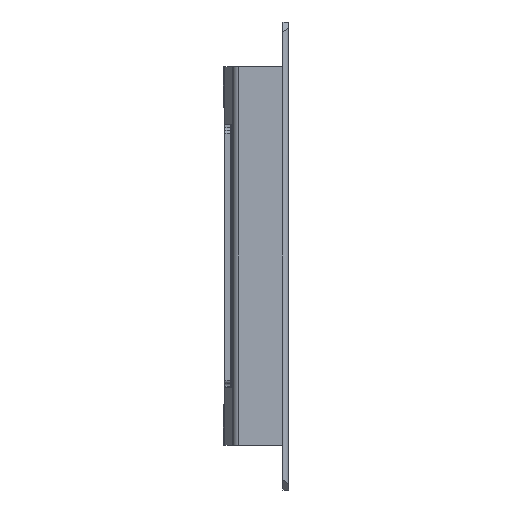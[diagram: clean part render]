
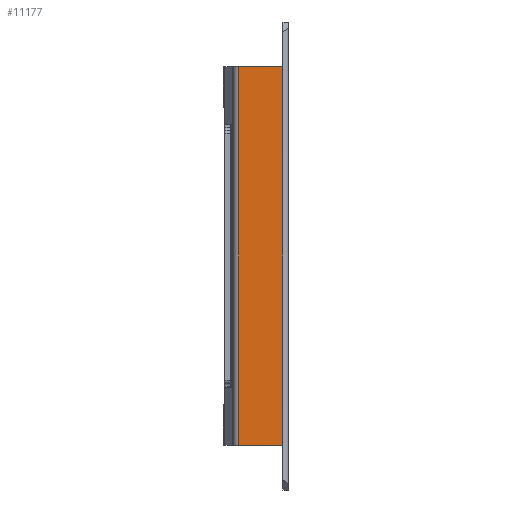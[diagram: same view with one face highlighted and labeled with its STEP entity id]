
A CAD part, front view. The second image highlights one B-rep face of the part: STEP entity #11177.
In plain terms, the highlighted planar face has unit normal (0, -1, 0).
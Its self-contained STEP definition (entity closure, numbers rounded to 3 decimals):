
#354 = ORIENTED_EDGE ( 'NONE', *, *, #877, .F. ) ;
#877 = EDGE_CURVE ( 'NONE', #6756, #12192, #4599, .T. ) ;
#1229 = CARTESIAN_POINT ( 'NONE',  ( 11.4, -18.7, 114. ) ) ;
#1561 = LINE ( 'NONE', #6423, #6049 ) ;
#2047 = VERTEX_POINT ( 'NONE', #9283 ) ;
#2507 = PLANE ( 'NONE',  #12178 ) ;
#3336 = VERTEX_POINT ( 'NONE', #10579 ) ;
#3351 = ORIENTED_EDGE ( 'NONE', *, *, #13079, .F. ) ;
#4449 = ORIENTED_EDGE ( 'NONE', *, *, #9393, .F. ) ;
#4599 = LINE ( 'NONE', #5783, #6798 ) ;
#5783 = CARTESIAN_POINT ( 'NONE',  ( 11.3, -18.7, 126. ) ) ;
#6049 = VECTOR ( 'NONE', #9520, 1000. ) ;
#6213 = LINE ( 'NONE', #1229, #7289 ) ;
#6282 = DIRECTION ( 'NONE',  ( 1., 0., 0. ) ) ;
#6423 = CARTESIAN_POINT ( 'NONE',  ( 11.4, -18.7, 12. ) ) ;
#6542 = DIRECTION ( 'NONE',  ( -1., 0., 0. ) ) ;
#6661 = DIRECTION ( 'NONE',  ( 0., 0., -1. ) ) ;
#6756 = VERTEX_POINT ( 'NONE', #11210 ) ;
#6798 = VECTOR ( 'NONE', #6661, 1000. ) ;
#6937 = CARTESIAN_POINT ( 'NONE',  ( -0.5, -18.7, 126. ) ) ;
#7289 = VECTOR ( 'NONE', #6282, 1000. ) ;
#8334 = VECTOR ( 'NONE', #10912, 1000. ) ;
#9229 = EDGE_CURVE ( 'NONE', #2047, #3336, #12836, .T. ) ;
#9283 = CARTESIAN_POINT ( 'NONE',  ( -0.5, -18.7, 114. ) ) ;
#9393 = EDGE_CURVE ( 'NONE', #2047, #6756, #6213, .T. ) ;
#9479 = CARTESIAN_POINT ( 'NONE',  ( 11.3, -18.7, 12. ) ) ;
#9520 = DIRECTION ( 'NONE',  ( -1., 0., 0. ) ) ;
#10579 = CARTESIAN_POINT ( 'NONE',  ( -0.5, -18.7, 12. ) ) ;
#10912 = DIRECTION ( 'NONE',  ( 0., 0., -1. ) ) ;
#11177 = ADVANCED_FACE ( 'NONE', ( #11583 ), #2507, .F. ) ;
#11210 = CARTESIAN_POINT ( 'NONE',  ( 11.3, -18.7, 114. ) ) ;
#11583 = FACE_OUTER_BOUND ( 'NONE', #12116, .T. ) ;
#11639 = DIRECTION ( 'NONE',  ( 0., 1., 0. ) ) ;
#12116 = EDGE_LOOP ( 'NONE', ( #354, #4449, #12345, #3351 ) ) ;
#12178 = AXIS2_PLACEMENT_3D ( 'NONE', #12754, #11639, #6542 ) ;
#12192 = VERTEX_POINT ( 'NONE', #9479 ) ;
#12345 = ORIENTED_EDGE ( 'NONE', *, *, #9229, .T. ) ;
#12754 = CARTESIAN_POINT ( 'NONE',  ( 12.9, -18.7, 126. ) ) ;
#12836 = LINE ( 'NONE', #6937, #8334 ) ;
#13079 = EDGE_CURVE ( 'NONE', #12192, #3336, #1561, .T. ) ;
